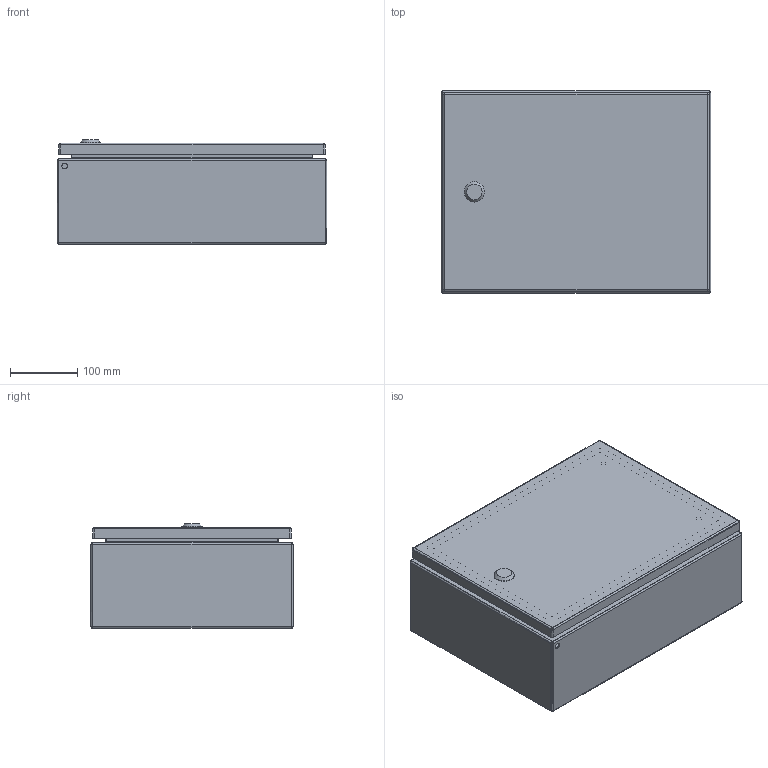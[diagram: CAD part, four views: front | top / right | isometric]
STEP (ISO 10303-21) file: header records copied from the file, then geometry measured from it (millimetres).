
FILE_DESCRIPTION (( 'STEP AP203' ), '1' );
FILE_NAME ('EC040315EE.STEP', '2023-08-31T11:45:38', ( '' ), ( '' ), 'SwSTEP 2.0', 'SolidWorks 2022', '' );
FILE_SCHEMA (( 'CONFIG_CONTROL_DESIGN' ));
Length unit declared in the file: millimetre
Products named in the file (6): AR_EC_EE_chiusura_std_STD; AR_ECOR_X_Piastra_06; AR_EC_EE_involucro_0400x0300x0150; AR_EC_EE_montaggio_porta_singola_0400x0300; EC040315EE; AR_EC_EE_porta_singola_0400x0300
Assembly tree (5 placements, depth 3):
  EC040315EE
    AR_EC_EE_involucro_0400x0300x0150
    AR_ECOR_X_Piastra_06
    AR_EC_EE_montaggio_porta_singola_0400x0300
      AR_EC_EE_porta_singola_0400x0300
      AR_EC_EE_chiusura_std_STD
Bounding box: 400 x 300 x 155 mm (x, y, z)
Volume: 982057 mm3; surface area: 1152492.2 mm2
Topology: 4 solids, 4 shells, 252 faces, 572 edges, 331 vertices
Faces by surface type: cylinder 122, plane 95, sphere 20, cone 6, torus 5, bspline 4
Full cylindrical faces by diameter (mm): 4.5 x8, 5.5 x2, 6 x3, 7 x4, 8 x7, 8.2 x5, 9.5 x4, 10 x8, 14 x4, 30 x1
Entity records: 7562 total; most frequent: CARTESIAN_POINT 1525, DIRECTION 1191, ORIENTED_EDGE 974, EDGE_CURVE 487, AXIS2_PLACEMENT_3D 476, EDGE_LOOP 380, VERTEX_POINT 323, FACE_OUTER_BOUND 299
